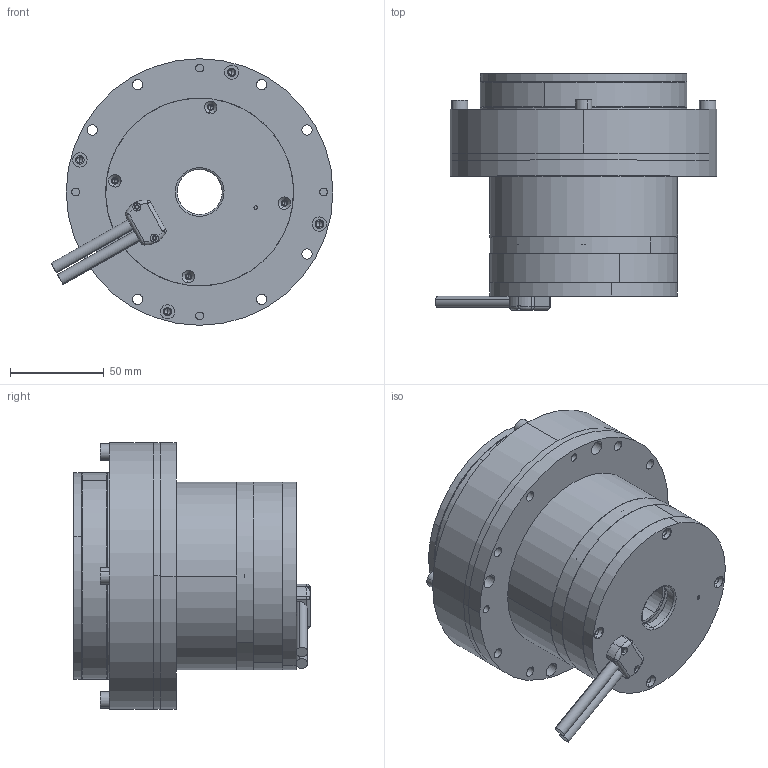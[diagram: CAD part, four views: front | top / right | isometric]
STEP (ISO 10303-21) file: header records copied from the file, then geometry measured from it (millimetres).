
FILE_DESCRIPTION (( 'STEP AP203' ), '1' );
FILE_NAME ('MT-RH32-B-V1.STEP', '2024-08-03T09:59:00', ( '' ), ( '' ), 'SwSTEP 2.0', 'SolidWorks 2020', '' );
FILE_SCHEMA (( 'CONFIG_CONTROL_DESIGN' ));
Length unit declared in the file: millimetre
Products named in the file (21): 6707-2RZ P5 CM V3-V1; MT-RH32-1001B-V1; N32_4-V1; 32疏楷汜ん蟀諉粣-V1; 盄擢_Default<偌樓馱>; N32_6-V1; N32_5-V1; M2x5+3-V1; MT-RH32-2001-V1; N32_7-V1; MT-RH32-1006-V1_Default<偌樓馱>; NS-32-I-V1; N32_8-V1; MT-RH32-2003-V1; 内六角圆柱头螺丝 M5_M5x14  12.9级黑; MT-RH32-1003-V1; MT-RH32-1002-V1; 幗紩-V1; MT-RH32-B-V1; MT-RH32-1004B-V1; RH-25-1010-V1-V1_Default<偌樓馱>
Assembly tree (54 placements, depth 3):
  MT-RH32-B-V1
    NS-32-I-V1
      N32_8-V1
      N32_4-V1
      N32_5-V1
      N32_6-V1
      N32_7-V1
      幗紩-V1  x31
    32疏楷汜ん蟀諉粣-V1
    MT-RH32-1002-V1
    MT-RH32-1003-V1
    6707-2RZ P5 CM V3-V1
    M2x5+3-V1
    MT-RH32-2001-V1
    MT-RH32-2003-V1
    MT-RH32-1006-V1_Default<偌樓馱>
    MT-RH32-1004B-V1
    RH-25-1010-V1-V1_Default<偌樓馱>
    MT-RH32-1001B-V1
    内六角圆柱头螺丝 M5_M5x14  12.9级黑  x4
    盄擢_Default<偌樓馱>  x2
Bounding box: 150.11 x 125.9 x 142 mm (x, y, z)
Volume: 753926.7 mm3; surface area: 296044.4 mm2
Topology: 53 solids, 53 shells, 1035 faces, 2709 edges, 1736 vertices
Faces by surface type: cylinder 646, plane 205, cone 80, sphere 66, torus 38
Entity records: 32413 total; most frequent: DIRECTION 5678, CARTESIAN_POINT 4979, ORIENTED_EDGE 4652, AXIS2_PLACEMENT_3D 2390, EDGE_CURVE 2326, VERTEX_POINT 1513, CIRCLE 1409, EDGE_LOOP 1299
